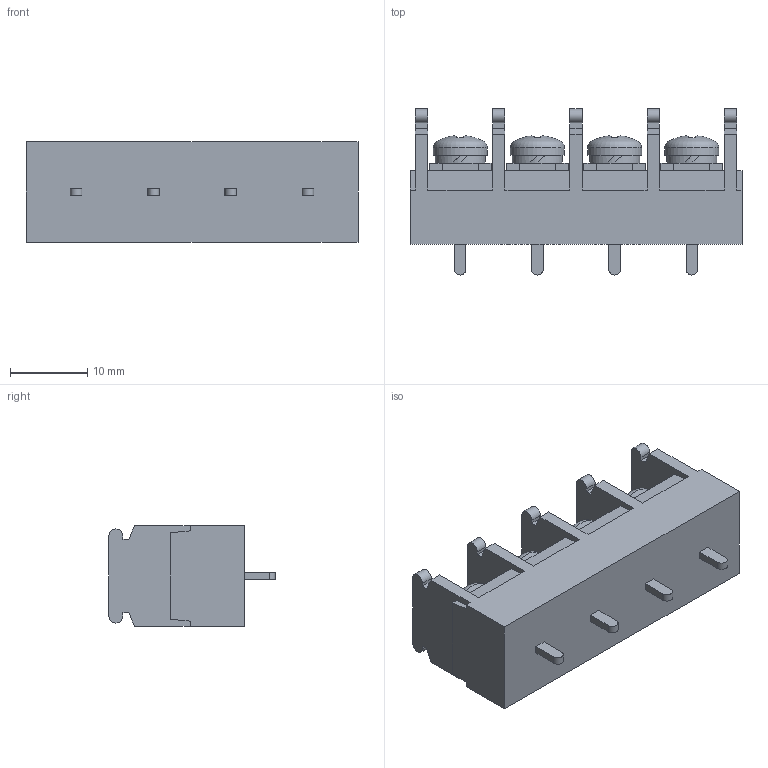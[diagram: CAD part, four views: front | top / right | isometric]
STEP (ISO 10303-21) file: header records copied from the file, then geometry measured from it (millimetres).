
FILE_DESCRIPTION(/* description */ ('Alibre Inc.'),/* implementation_level */ '2;1');
FILE_NAME(/* name */ 'export0',/* time_stamp */ '2015-10-17T19:40:14+09:00',/* author */ (''),/* organization */ (''),/* preprocessor_version */ 'ST-DEVELOPER v14',/* originating_system */ 'Alibre',/* authorisation */ '');
FILE_SCHEMA (('CONFIG_CONTROL_DESIGN'));
Length unit declared in the file: centimetre
Products named in the file (1): ID_1
Bounding box: 43 x 21.5 x 13 mm (x, y, z)
Volume: 6640 mm3; surface area: 3931.8 mm2
Topology: 1 solids, 17 shells, 640 faces, 1694 edges, 1128 vertices
Faces by surface type: plane 486, bspline 104, cylinder 26, cone 16, sphere 4, torus 4
Full cylindrical faces by diameter (mm): 6.5 x4, 7 x4
Entity records: 19337 total; most frequent: CARTESIAN_POINT 4515, ORIENTED_EDGE 3372, DIRECTION 2194, EDGE_CURVE 1686, VECTOR 1294, LINE 1294, VERTEX_POINT 1128, EDGE_LOOP 696
